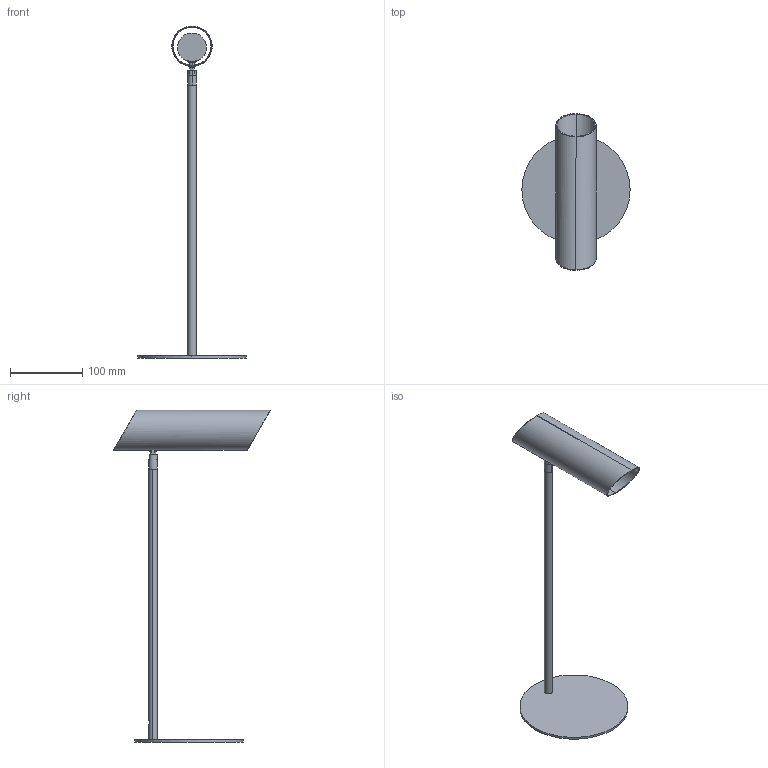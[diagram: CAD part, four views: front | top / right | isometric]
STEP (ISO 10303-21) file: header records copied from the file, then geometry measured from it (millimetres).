
FILE_DESCRIPTION(/* description */ (''),/* implementation_level */ '2;1');
FILE_NAME(/* name */ 'C:\Users\FrancoSartori\Documents\FARO\01_En Proceso\00_LINK\03_Publicación\29882.stp',/* time_stamp */ '2021-06-30T16:29:12+02:00',/* author */ ('FrancoSartori'),/* organization */ (''),/* preprocessor_version */ 'ST-DEVELOPER v18.1',/* originating_system */ 'AutoCAD Mechanical',/* authorisation */ '');
FILE_SCHEMA (('AUTOMOTIVE_DESIGN { 1 0 10303 214 3 1 1 }'));
Length unit declared in the file: millimetre
Products named in the file (2): Product; 29881_ 29882_ 29898_ - structure-597107-_3D_
Assembly tree (1 placements, depth 2):
  Product
    29881_ 29882_ 29898_ - structure-597107-_3D_
Bounding box: 150 x 217.33 x 460 mm (x, y, z)
Volume: 144118.7 mm3; surface area: 182400.3 mm2
Topology: 5 solids, 6 shells, 78 faces, 178 edges, 112 vertices
Faces by surface type: plane 39, cylinder 35, bspline 4
Entity records: 2609 total; most frequent: CARTESIAN_POINT 801, DIRECTION 374, ORIENTED_EDGE 344, EDGE_CURVE 178, AXIS2_PLACEMENT_3D 139, VERTEX_POINT 112, LINE 96, VECTOR 96
